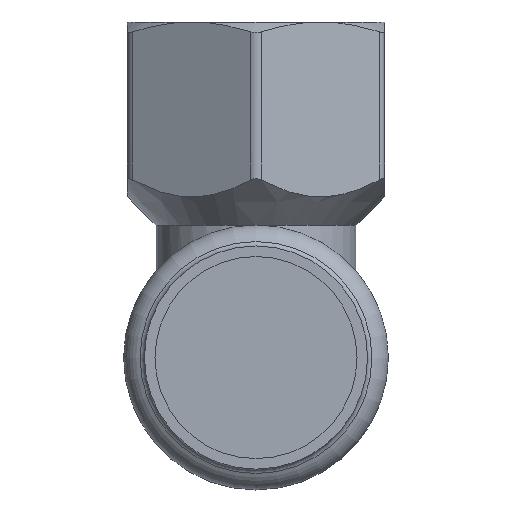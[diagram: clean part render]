
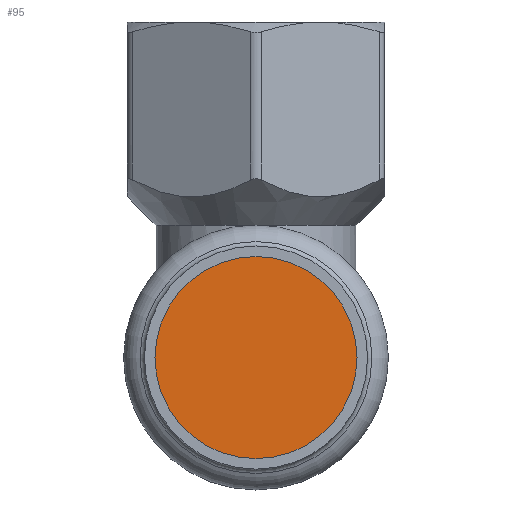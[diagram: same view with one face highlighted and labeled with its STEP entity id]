
A CAD part, front view. The second image highlights one B-rep face of the part: STEP entity #95.
In plain terms, the highlighted planar face has unit normal (0, -1, 0).
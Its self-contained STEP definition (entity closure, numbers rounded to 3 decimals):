
#95=ADVANCED_FACE('',(#436),#438,.T.);
#436=FACE_BOUND('',#437,.T.);
#437=EDGE_LOOP('',(#592));
#438=PLANE('',#439);
#439=AXIS2_PLACEMENT_3D('',#440,#441,#442);
#440=CARTESIAN_POINT('',(0.,-44.219,0.));
#441=DIRECTION('',(0.,-1.,0.));
#442=DIRECTION('',(0.,0.,-1.));
#592=ORIENTED_EDGE('',*,*,#667,.T.);
#667=EDGE_CURVE('',#798,#798,#799,.F.);
#798=VERTEX_POINT('',#2162);
#799=CIRCLE('',#2163,14.15);
#2162=CARTESIAN_POINT('',(0.,-44.219,14.15));
#2163=AXIS2_PLACEMENT_3D('',#2164,#2165,#2166);
#2164=CARTESIAN_POINT('',(0.,-44.219,0.));
#2165=DIRECTION('',(0.,1.,0.));
#2166=DIRECTION('',(0.,0.,1.));
